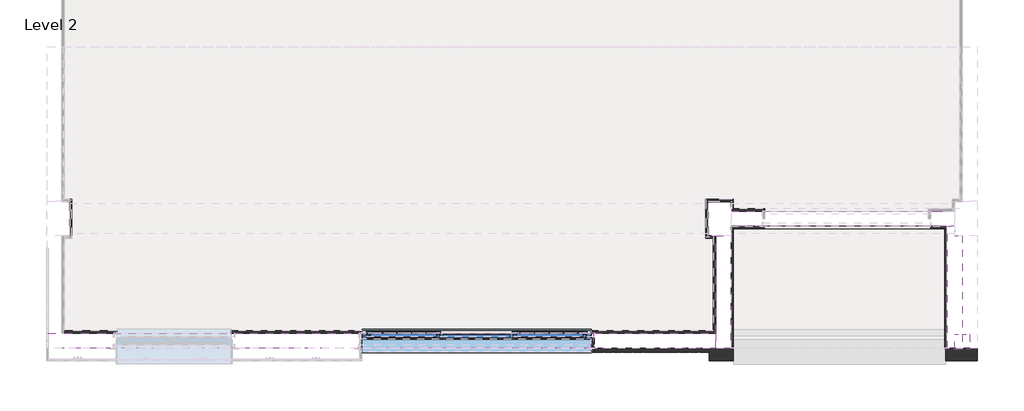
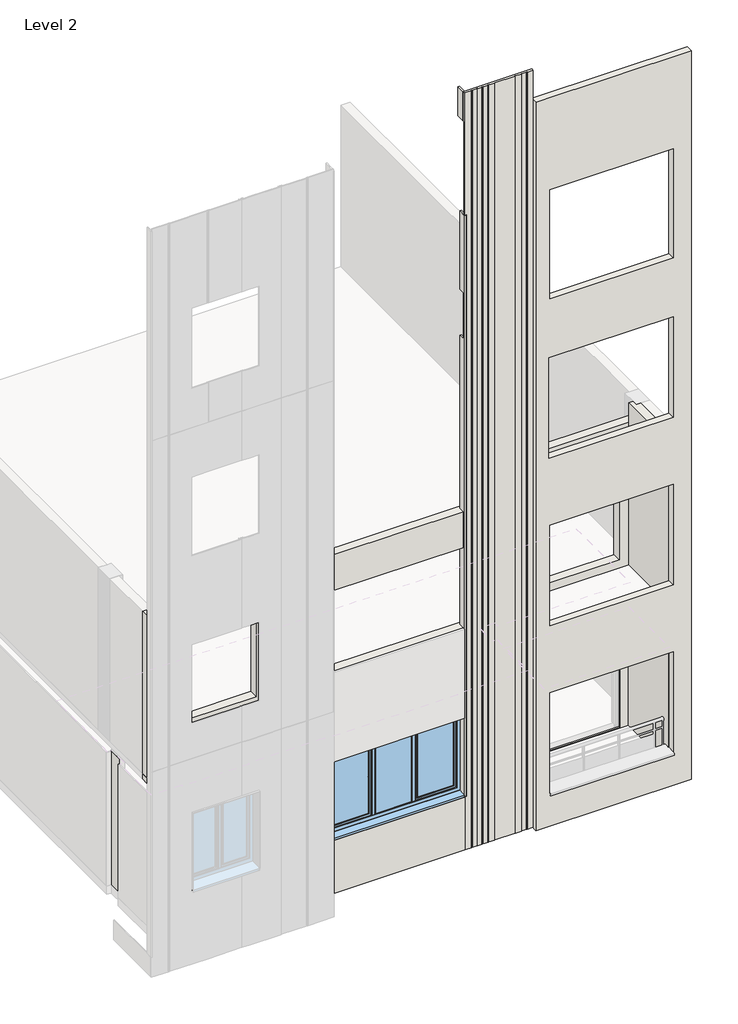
# One storey, part 2 of 3: 22 walls, 1 window.
"""IFC4 building model written with IfcOpenShell, lengths in millimetres."""

from ifc_helpers import new_model, si_unit, frame, origin, place, context, project, spatial, polyline, circle_curve, outline, extrude, faceted_brep, transform, mapped, element, save
from ifc_brep_helpers import plane_surface, revolved_surface, advanced_brep
from components import window_99bb7202, window_5d68ef25

model = new_model("IFC4")

# Units and contexts
model_context = context("Model", 3, world=origin())
ifc_project = project(units=[si_unit("LENGTHUNIT", "METRE", prefix="MILLI")], contexts=[model_context])

# Site, building, storey
site = spatial("IfcSite", under=ifc_project)
building = spatial("IfcBuilding", under=site)
storey = spatial("IfcBuildingStorey", under=building, Name="Level 2", Elevation=4000.0)

# Walls
placement = place(None, origin())
element("IfcWall", 1, ObjectType="BZ1_fnsh_wthie stucoo_3cm", at=placement, inside=storey, context=model_context, shape_type="Brep", body=[
    faceted_brep([(7589.4333411, -4100.9647185, 4000.0), (4759.4333411, -4100.9647185, 4000.0), (4759.4333411, -4100.9647185, 6820.0), (7589.4333411, -4100.9647185, 6820.0), (5195.0708411, -4100.9647185, 6400.0), (5195.0708411, -4100.9647185, 4020.6375), (7374.4333411, -4100.9647185, 4020.6375), (7374.4333411, -4100.9647185, 6400.0), (7589.4333411, -4130.9647185, 4000.0), (7589.4333411, -4130.9647185, 6800.0), (7589.4333411, -4130.9647185, 6820.0), (4759.4333411, -4130.9647185, 6820.0), (4759.4333411, -4130.9647185, 6800.0), (4759.4333411, -4130.9647185, 4000.0), (7559.4333411, -4130.9647185, 4000.0), (5195.0708411, -4130.9647185, 6400.0), (7374.4333411, -4130.9647185, 6400.0), (7374.4333411, -4130.9647185, 4020.6375), (5195.0708411, -4130.9647185, 4020.6375)], [[[0, 1, 2, 3], [4, 5, 6, 7]], [[8, 9, 10, 11, 12, 13, 14], [15, 16, 17, 18]], [[0, 3, 10, 9, 8]], [[1, 0, 8, 14, 13]], [[2, 1, 13, 12, 11]], [[3, 2, 11, 10]], [[5, 4, 15, 18]], [[6, 5, 18, 17]], [[7, 6, 17, 16]], [[4, 7, 16, 15]]]),
])
element("IfcWall", 2, ObjectType="BZ1_fnsh_wthie stucoo_3cm", at=placement, inside=storey, context=model_context, shape_type="SweptSolid", body=[
    extrude(outline(polyline([(7589.4333411, -4130.9647185), (7589.4333411, -5700.9647185), (7559.4333411, -5700.9647185), (7559.4333411, -4130.9647185), (7589.4333411, -4130.9647185)])), frame((0.0, 0.0, 4000.0), z_axis=(0.0, 0.0, 1.0), x_axis=(1.0, 0.0, 0.0)), (0.0, 0.0, 1.0), 2800.0),
])
element("IfcWall", 3, ObjectType="BZ1_fnsh_wthie stucoo_3cm", at=placement, inside=storey, context=model_context, shape_type="Brep", body=[
    faceted_brep([(4789.4333411, -5700.9647185, 6800.0), (4789.4333411, -5700.9647185, 4400.0), (4789.4333411, -5700.9647185, 3842.5873092), (4789.4333411, -4130.9647185, 3842.5873092), (4789.4333411, -4130.9647185, 6800.0), (4759.4333411, -5700.9647185, 3842.5873092), (4759.4333411, -5700.9647185, 6800.0), (4759.4333411, -4130.9647185, 6800.0), (4759.4333411, -4130.9647185, 4000.0), (4759.4333411, -4130.9647185, 3842.5873092)], [[[0, 1, 2, 3, 4]], [[5, 6, 7, 8, 9]], [[3, 2, 5, 9]], [[0, 4, 7, 6]], [[4, 3, 9, 8, 7]], [[0, 6, 5, 2, 1]]]),
])
element("IfcWall", 4, ObjectType="BZ1_fnsh_white stucoo_5cm", at=placement, inside=storey, context=model_context, shape_type="AdvancedBrep", body=[
    advanced_brep(
    [(4474.4333411, -5700.9799478, 3630.0), (2939.4333411, -5700.9799478, 3630.0), (2939.4333411, -5700.9799478, 4900.0), (2967.4333411, -5700.9799478, 4900.0), (2967.4333411, -5700.9799478, 7670.0), (2967.4333411, -5700.9799478, 11670.0), (2967.4333411, -5700.9799478, 15800.0), (2967.4333411, -5700.9799478, 18770.0), (2967.4333411, -5700.9799478, 18770.3886675), (2957.4960399, -5700.9799478, 18770.3886675), (2939.4333411, -5700.9799478, 18770.3886675), (2939.4333411, -5700.9799478, 21000.0), (2924.4333411, -5700.9799478, 21000.0), (2924.4333411, -5700.9799478, 21694.873822), (2924.4333411, -5700.9799478, 21696.328216), (4474.4333411, -5700.9799478, 21696.328216), (4474.4333411, -5700.9799478, 21000.0), (4474.4333411, -5750.9799478, 3630.0), (4474.4333411, -5750.9799478, 21696.328216), (4346.3531683, -5750.9799478, 21696.328216), (4346.3531683, -5750.9799478, 3630.0), (3103.4960254, -5750.9799478, 21696.328216), (3103.4960254, -5750.9799478, 3630.0), (3206.067454, -5750.9799478, 3630.0), (3206.067454, -5750.9799478, 21696.328216), (3601.7817397, -5750.9799478, 3630.0), (3601.7817397, -5750.9799478, 21696.328216), (3479.2103111, -5750.9799478, 21696.328216), (3479.2103111, -5750.9799478, 3630.0), (3463.2103111, -5750.9799478, 3630.0), (3463.2103111, -5750.9799478, 21696.328216), (3340.6388826, -5750.9799478, 21696.328216), (3340.6388826, -5750.9799478, 3630.0), (3324.6388826, -5750.9799478, 3630.0), (3324.6388826, -5750.9799478, 21696.328216), (3222.067454, -5750.9799478, 21696.328216), (3222.067454, -5750.9799478, 3630.0), (4330.3531683, -5750.9799478, 3630.0), (4330.3531683, -5750.9799478, 21696.328216), (4227.7817397, -5750.9799478, 21696.328216), (4227.7817397, -5750.9799478, 3630.0), (4211.7817397, -5750.9799478, 3630.0), (4211.7817397, -5750.9799478, 21696.328216), (4080.692605, -5750.9799478, 21696.328216), (4080.692605, -5750.9799478, 3630.0), (4064.692605, -5750.9799478, 3630.0), (4064.692605, -5750.9799478, 21696.328216), (3617.7817397, -5750.9799478, 21696.328216), (3617.7817397, -5750.9799478, 3630.0), (2939.4333411, -5750.9799478, 4900.0), (2939.4333411, -5750.9799478, 3630.0), (3087.4960254, -5750.9799478, 3630.0), (3087.4960254, -5750.9799478, 21696.328216), (2924.4333411, -5750.9799478, 21696.328216), (2924.4333411, -5750.9799478, 21000.0), (2939.4333411, -5750.9799478, 21000.0), (2939.4333411, -5750.9799478, 18770.3886675), (2967.4333411, -5750.9799478, 18770.3886675), (2967.4333411, -5750.9799478, 18770.0), (2967.4333411, -5750.9799478, 4900.0), (2967.4333411, -5708.7266002, 18770.3886675), (3095.4960254, -5742.9799478, 21696.328216), (3095.4960254, -5742.9799478, 3630.0), (3609.7817397, -5742.9799478, 21696.328216), (3609.7817397, -5742.9799478, 3630.0), (3471.2103111, -5742.9799478, 21696.328216), (3471.2103111, -5742.9799478, 3630.0), (3332.6388826, -5742.9799478, 21696.328216), (3332.6388826, -5742.9799478, 3630.0), (3214.067454, -5742.9799478, 21696.328216), (3214.067454, -5742.9799478, 3630.0), (4338.3531683, -5742.9799478, 21696.328216), (4338.3531683, -5742.9799478, 3630.0), (4219.7817397, -5742.9799478, 21696.328216), (4219.7817397, -5742.9799478, 3630.0), (4072.692605, -5742.9799478, 21696.328216), (4072.692605, -5742.9799478, 3630.0)],
    [
        (0, 1),
        (1, 2),
        (2, 3),
        (3, 4),
        (4, 5),
        (5, 6),
        (6, 7),
        (7, 8),
        (8, 9),
        (9, 10),
        (10, 11),
        (11, 12),
        (12, 13),
        (13, 14),
        (14, 15),
        (15, 16),
        (16, 0),
        (17, 18),
        (18, 19),
        (19, 20),
        (20, 17),
        (21, 22),
        (22, 23),
        (23, 24),
        (24, 21),
        (25, 26),
        (26, 27),
        (27, 28),
        (28, 25),
        (29, 30),
        (30, 31),
        (31, 32),
        (32, 29),
        (33, 34),
        (34, 35),
        (35, 36),
        (36, 33),
        (37, 38),
        (38, 39),
        (39, 40),
        (40, 37),
        (41, 42),
        (42, 43),
        (43, 44),
        (44, 41),
        (45, 46),
        (46, 47),
        (47, 48),
        (48, 45),
        (49, 50),
        (50, 51),
        (51, 52),
        (52, 53),
        (53, 54),
        (54, 55),
        (55, 56),
        (56, 57),
        (57, 58),
        (58, 59),
        (59, 49),
        (57, 60),
        (60, 8),
        (3, 59),
        (12, 54),
        (53, 14),
        (61, 62),
        (62, 22, circle_curve(frame((3095.4960254, -5750.9799478, 3630.0), z_axis=(0.0, 0.0, -1.0), x_axis=(0.0, 1.0, 0.0)), 8.0)),
        (21, 61, circle_curve(frame((3095.4960254, -5750.9799478, 21696.328216), z_axis=(0.0, 0.0, 1.0), x_axis=(0.0, 1.0, 0.0)), 8.0)),
        (63, 64),
        (64, 48, circle_curve(frame((3609.7817397, -5750.9799478, 3630.0), z_axis=(0.0, 0.0, -1.0), x_axis=(0.0, 1.0, 0.0)), 8.0)),
        (47, 63, circle_curve(frame((3609.7817397, -5750.9799478, 21696.328216), z_axis=(0.0, 0.0, 1.0), x_axis=(0.0, 1.0, 0.0)), 8.0)),
        (65, 66),
        (66, 28, circle_curve(frame((3471.2103111, -5750.9799478, 3630.0), z_axis=(0.0, 0.0, -1.0), x_axis=(0.0, 1.0, 0.0)), 8.0)),
        (27, 65, circle_curve(frame((3471.2103111, -5750.9799478, 21696.328216), z_axis=(0.0, 0.0, 1.0), x_axis=(0.0, 1.0, 0.0)), 8.0)),
        (67, 68),
        (68, 32, circle_curve(frame((3332.6388826, -5750.9799478, 3630.0), z_axis=(0.0, 0.0, -1.0), x_axis=(0.0, 1.0, 0.0)), 8.0)),
        (31, 67, circle_curve(frame((3332.6388826, -5750.9799478, 21696.328216), z_axis=(0.0, 0.0, 1.0), x_axis=(0.0, 1.0, 0.0)), 8.0)),
        (69, 70),
        (70, 36, circle_curve(frame((3214.067454, -5750.9799478, 3630.0), z_axis=(0.0, 0.0, -1.0), x_axis=(0.0, 1.0, 0.0)), 8.0)),
        (35, 69, circle_curve(frame((3214.067454, -5750.9799478, 21696.328216), z_axis=(0.0, 0.0, 1.0), x_axis=(0.0, 1.0, 0.0)), 8.0)),
        (71, 72),
        (72, 20, circle_curve(frame((4338.3531683, -5750.9799478, 3630.0), z_axis=(0.0, 0.0, -1.0), x_axis=(0.0, 1.0, 0.0)), 8.0)),
        (19, 71, circle_curve(frame((4338.3531683, -5750.9799478, 21696.328216), z_axis=(0.0, 0.0, 1.0), x_axis=(0.0, 1.0, 0.0)), 8.0)),
        (73, 74),
        (74, 40, circle_curve(frame((4219.7817397, -5750.9799478, 3630.0), z_axis=(0.0, 0.0, -1.0), x_axis=(0.0, 1.0, 0.0)), 8.0)),
        (39, 73, circle_curve(frame((4219.7817397, -5750.9799478, 21696.328216), z_axis=(0.0, 0.0, 1.0), x_axis=(0.0, 1.0, 0.0)), 8.0)),
        (75, 76),
        (76, 44, circle_curve(frame((4072.692605, -5750.9799478, 3630.0), z_axis=(0.0, 0.0, -1.0), x_axis=(0.0, 1.0, 0.0)), 8.0)),
        (43, 75, circle_curve(frame((4072.692605, -5750.9799478, 21696.328216), z_axis=(0.0, 0.0, 1.0), x_axis=(0.0, 1.0, 0.0)), 8.0)),
        (61, 52, circle_curve(frame((3095.4960254, -5750.9799478, 21696.328216), z_axis=(0.0, 0.0, 1.0), x_axis=(0.0, 1.0, 0.0)), 8.0)),
        (51, 62, circle_curve(frame((3095.4960254, -5750.9799478, 3630.0), z_axis=(0.0, 0.0, -1.0), x_axis=(0.0, 1.0, 0.0)), 8.0)),
        (63, 26, circle_curve(frame((3609.7817397, -5750.9799478, 21696.328216), z_axis=(0.0, 0.0, 1.0), x_axis=(0.0, 1.0, 0.0)), 8.0)),
        (25, 64, circle_curve(frame((3609.7817397, -5750.9799478, 3630.0), z_axis=(0.0, 0.0, -1.0), x_axis=(0.0, 1.0, 0.0)), 8.0)),
        (65, 30, circle_curve(frame((3471.2103111, -5750.9799478, 21696.328216), z_axis=(0.0, 0.0, 1.0), x_axis=(0.0, 1.0, 0.0)), 8.0)),
        (29, 66, circle_curve(frame((3471.2103111, -5750.9799478, 3630.0), z_axis=(0.0, 0.0, -1.0), x_axis=(0.0, 1.0, 0.0)), 8.0)),
        (67, 34, circle_curve(frame((3332.6388826, -5750.9799478, 21696.328216), z_axis=(0.0, 0.0, 1.0), x_axis=(0.0, 1.0, 0.0)), 8.0)),
        (33, 68, circle_curve(frame((3332.6388826, -5750.9799478, 3630.0), z_axis=(0.0, 0.0, -1.0), x_axis=(0.0, 1.0, 0.0)), 8.0)),
        (69, 24, circle_curve(frame((3214.067454, -5750.9799478, 21696.328216), z_axis=(0.0, 0.0, 1.0), x_axis=(0.0, 1.0, 0.0)), 8.0)),
        (23, 70, circle_curve(frame((3214.067454, -5750.9799478, 3630.0), z_axis=(0.0, 0.0, -1.0), x_axis=(0.0, 1.0, 0.0)), 8.0)),
        (71, 38, circle_curve(frame((4338.3531683, -5750.9799478, 21696.328216), z_axis=(0.0, 0.0, 1.0), x_axis=(0.0, 1.0, 0.0)), 8.0)),
        (37, 72, circle_curve(frame((4338.3531683, -5750.9799478, 3630.0), z_axis=(0.0, 0.0, -1.0), x_axis=(0.0, 1.0, 0.0)), 8.0)),
        (73, 42, circle_curve(frame((4219.7817397, -5750.9799478, 21696.328216), z_axis=(0.0, 0.0, 1.0), x_axis=(0.0, 1.0, 0.0)), 8.0)),
        (41, 74, circle_curve(frame((4219.7817397, -5750.9799478, 3630.0), z_axis=(0.0, 0.0, -1.0), x_axis=(0.0, 1.0, 0.0)), 8.0)),
        (75, 46, circle_curve(frame((4072.692605, -5750.9799478, 21696.328216), z_axis=(0.0, 0.0, 1.0), x_axis=(0.0, 1.0, 0.0)), 8.0)),
        (45, 76, circle_curve(frame((4072.692605, -5750.9799478, 3630.0), z_axis=(0.0, 0.0, -1.0), x_axis=(0.0, 1.0, 0.0)), 8.0)),
        (0, 17),
        (50, 1),
        (18, 15),
        (49, 2),
        (55, 11),
        (10, 56),
    ],
    [
        plane_surface(frame((4759.4333411, -5700.9799478, 3630.0), z_axis=(0.0, 1.0, 0.0), x_axis=(-1.0, 0.0, 0.0))),
        plane_surface(frame((4759.4333411, -5750.9799478, 3630.0), z_axis=(0.0, -1.0, 0.0), x_axis=(1.0, 0.0, 0.0))),
        plane_surface(frame((2967.4333411, -5568.8647185, 4900.0), z_axis=(-1.0, 0.0, 0.0), x_axis=(0.0, 1.0, 0.0))),
        plane_surface(frame((2924.4333411, -5600.9647185, 21000.0), z_axis=(-1.0, 0.0, 0.0), x_axis=(0.0, -1.0, 0.0))),
        revolved_surface(polyline([(3095.4960254, -5742.9799478, 3630.0), (3095.4960254, -5742.9799478, 21696.328216)]), (3095.4960254, -5750.9799478, 3630.0), (0.0, 0.0, -1.0)),
        revolved_surface(polyline([(3609.7817397, -5742.9799478, 3630.0), (3609.7817397, -5742.9799478, 21696.328216)]), (3609.7817397, -5750.9799478, 3630.0), (0.0, 0.0, -1.0)),
        revolved_surface(polyline([(3471.2103111, -5742.9799478, 3630.0), (3471.2103111, -5742.9799478, 21696.328216)]), (3471.2103111, -5750.9799478, 3630.0), (0.0, 0.0, -1.0)),
        revolved_surface(polyline([(3332.6388826, -5742.9799478, 3630.0), (3332.6388826, -5742.9799478, 21696.328216)]), (3332.6388826, -5750.9799478, 3630.0), (0.0, 0.0, -1.0)),
        revolved_surface(polyline([(3214.067454, -5742.9799478, 3630.0), (3214.067454, -5742.9799478, 21696.328216)]), (3214.067454, -5750.9799478, 3630.0), (0.0, 0.0, -1.0)),
        revolved_surface(polyline([(4338.3531683, -5742.9799478, 3630.0), (4338.3531683, -5742.9799478, 21696.328216)]), (4338.3531683, -5750.9799478, 3630.0), (0.0, 0.0, -1.0)),
        revolved_surface(polyline([(4219.7817397, -5742.9799478, 3630.0), (4219.7817397, -5742.9799478, 21696.328216)]), (4219.7817397, -5750.9799478, 3630.0), (0.0, 0.0, -1.0)),
        revolved_surface(polyline([(4072.692605, -5742.9799478, 3630.0), (4072.692605, -5742.9799478, 21696.328216)]), (4072.692605, -5750.9799478, 3630.0), (0.0, 0.0, -1.0)),
        plane_surface(frame((4474.4333411, -5700.9799478, 3630.0), z_axis=(0.0, 0.0, -1.0), x_axis=(0.0, -1.0, 0.0))),
        plane_surface(frame((2939.4333411, -5700.9799478, 21696.328216), z_axis=(0.0, 0.0, 1.0), x_axis=(0.0, -1.0, 0.0))),
        plane_surface(frame((4474.4333411, -5700.9799478, 21696.328216), z_axis=(1.0, 0.0, 0.0), x_axis=(0.0, -1.0, 0.0))),
        plane_surface(frame((2939.4333411, -5700.9799478, 3630.0), z_axis=(-1.0, 0.0, 0.0), x_axis=(0.0, -1.0, 0.0))),
        plane_surface(frame((2939.4333411, -5700.9799478, 4900.0), z_axis=(0.0, 0.0, 1.0), x_axis=(1.0, 0.0, 0.0))),
        plane_surface(frame((2939.4333411, -5700.9799478, 18770.3886675), z_axis=(0.0, 0.0, -1.0), x_axis=(1.0, 0.0, 0.0))),
        plane_surface(frame((2939.4333411, -5700.9799478, 21000.0), z_axis=(0.0, 0.0, -1.0), x_axis=(1.0, 0.0, 0.0))),
    ],
    [
        (0, [[1, 2, 3, 4, 5, 6, 7, 8, 9, 10, 11, 12, 13, 14, 15, 16, 17]]),
        (1, [[18, 19, 20, 21]]),
        (1, [[22, 23, 24, 25]]),
        (1, [[26, 27, 28, 29]]),
        (1, [[30, 31, 32, 33]]),
        (1, [[34, 35, 36, 37]]),
        (1, [[38, 39, 40, 41]]),
        (1, [[42, 43, 44, 45]]),
        (1, [[46, 47, 48, 49]]),
        (1, [[50, 51, 52, 53, 54, 55, 56, 57, 58, 59, 60]]),
        (2, [[-59, -58, 61, 62, -8, -7, -6, -5, -4, 63]]),
        (3, [[-14, -13, 64, -54, 65]]),
        (4, [[66, 67, -22, 68]]),
        (5, [[69, 70, -48, 71]]),
        (6, [[72, 73, -28, 74]]),
        (7, [[75, 76, -32, 77]]),
        (8, [[78, 79, -36, 80]]),
        (9, [[81, 82, -20, 83]]),
        (10, [[84, 85, -40, 86]]),
        (11, [[87, 88, -44, 89]]),
        (4, [[-66, 90, -52, 91]]),
        (5, [[-69, 92, -26, 93]]),
        (6, [[-72, 94, -30, 95]]),
        (7, [[-75, 96, -34, 97]]),
        (8, [[-78, 98, -24, 99]]),
        (9, [[-81, 100, -38, 101]]),
        (10, [[-84, 102, -42, 103]]),
        (11, [[-87, 104, -46, 105]]),
        (12, [[-1, 106, -21, -82, -101, -41, -85, -103, -45, -88, -105, -49, -70, -93, -29, -73, -95, -33, -76, -97, -37, -79, -99, -23, -67, -91, -51, 107]]),
        (13, [[-15, -65, -53, -90, -68, -25, -98, -80, -35, -96, -77, -31, -94, -74, -27, -92, -71, -47, -104, -89, -43, -102, -86, -39, -100, -83, -19, 108]]),
        (14, [[-17, -16, -108, -18, -106]]),
        (15, [[-50, 109, -2, -107]]),
        (15, [[-56, 110, -11, 111]]),
        (16, [[-3, -109, -60, -63]]),
        (17, [[-111, -10, -9, -62, -61, -57]]),
        (18, [[-12, -110, -55, -64]]),
    ],
),
])
element("IfcWall", 5, ObjectType="BZ1_fnsh_blue stucoo_frame_4cm", at=placement, inside=storey, context=model_context, shape_type="Brep", body=[
    faceted_brep([(2927.4333411, -5568.8647185, 4900.0), (2927.4333411, -5750.9799478, 4900.0), (2927.4333411, -5750.9799478, 6770.0), (2927.4333411, -5750.9799478, 8900.0), (2927.4333411, -5750.9799478, 10770.0), (2927.4333411, -5750.9799478, 12900.0), (2927.4333411, -5750.9799478, 14770.0), (2927.4333411, -5750.9799478, 16900.0), (2927.4333411, -5750.9799478, 18770.0), (2927.4333411, -5568.8647185, 18770.0), (2927.4333411, -5568.8647185, 16900.0), (2927.4333411, -5700.9647185, 16900.0), (2927.4333411, -5700.9647185, 15800.0), (2927.4333411, -5568.8647185, 15800.0), (2927.4333411, -5568.8647185, 11670.0), (2927.4333411, -5700.9647185, 11670.0), (2927.4333411, -5700.9647185, 10810.0), (2927.4333411, -5568.8647185, 10810.0), (2927.4333411, -5568.8647185, 8900.0), (2927.4333411, -5700.9647185, 8900.0), (2927.4333411, -5700.9647185, 7670.0), (2927.4333411, -5568.8647185, 7670.0), (2967.4333411, -5750.9799478, 4900.0), (2967.4333411, -5700.9799478, 4900.0), (2967.4333411, -5568.8647185, 4900.0), (2967.4333411, -5568.8647185, 7670.0), (2967.4333411, -5700.9647185, 7670.0), (2967.4333411, -5700.9647185, 11670.0), (2967.4333411, -5568.8647185, 11670.0), (2967.4333411, -5568.8647185, 15800.0), (2967.4333411, -5700.9647185, 15800.0), (2967.4333411, -5700.9647185, 18770.0), (2967.4333411, -5750.9799478, 18770.0), (2939.4333411, -5750.9799478, 4900.0), (2957.4960254, -5700.9647185, 15800.0), (2957.4960254, -5700.9647185, 16900.0), (2964.4333411, -5700.9647185, 16900.0), (2964.4333411, -5700.9647185, 18770.0), (2964.4333411, -5568.8647185, 16900.0), (2964.4333411, -5693.0356138, 16900.0), (2964.4333411, -5700.9647185, 8900.0), (2964.4333411, -5700.9647185, 10810.0), (2964.4333411, -5568.8647185, 10810.0), (2964.4333411, -5568.8647185, 8900.0), (2964.4333411, -5568.8647185, 18770.0)], [[[0, 1, 2, 3, 4, 5, 6, 7, 8, 9, 10, 11, 12, 13, 14, 15, 16, 17, 18, 19, 20, 21]], [[22, 23, 24, 25, 26, 27, 28, 29, 30, 31, 32]], [[22, 32, 8, 7, 6, 5, 4, 3, 2, 1, 33]], [[30, 34, 12, 11, 35, 36, 37, 31]], [[12, 34, 30, 29, 13]], [[36, 35, 11, 10, 38, 39]], [[40, 41, 16, 15, 27, 26, 20, 19]], [[20, 26, 25, 21]], [[16, 41, 42, 17]], [[40, 19, 18, 43]], [[1, 0, 24, 23, 22, 33]], [[9, 8, 32, 31, 37, 44]], [[10, 9, 44, 38]], [[18, 17, 42, 43]], [[24, 0, 21, 25]], [[13, 29, 28, 14]], [[27, 15, 14, 28]], [[36, 39, 38, 44, 37]], [[41, 40, 43, 42]]]),
])
element("IfcWall", 6, ObjectType="BZ1_fnsh_white stucoo_5cm", at=placement, inside=storey, context=model_context, shape_type="Brep", body=[
    faceted_brep([(2939.4333411, -5700.9799478, 3630.0), (-80.2322612, -5700.9799478, 3630.0), (-80.2322612, -5700.9799478, 4900.0), (2939.4333411, -5700.9799478, 4900.0), (2939.4333411, -5750.9799478, 3630.0), (2939.4333411, -5750.9799478, 4900.0), (2927.4333411, -5750.9799478, 4900.0), (-80.2322612, -5750.9799478, 4900.0), (-80.2322612, -5750.9799478, 3630.0)], [[[0, 1, 2, 3]], [[4, 5, 6, 7, 8]], [[2, 1, 8, 7]], [[1, 0, 4, 8]], [[3, 2, 7, 6, 5]], [[0, 3, 5, 4]]]),
])
element("IfcWall", 7, ObjectType="BZ1_fnsh_wthie stucoo_3cm", at=placement, inside=storey, context=model_context, shape_type="Brep", body=[
    faceted_brep([(2924.4333411, -5500.9647185, 21000.0), (2924.4333411, -5700.9799478, 21000.0), (2924.4333411, -5700.9799478, 21694.873822), (2924.4333411, -5500.9647185, 21694.873822), (2954.4333411, -5500.9647185, 21000.0), (2954.4333411, -5500.9647185, 21694.873822), (2954.4333411, -5700.9799478, 21694.873822), (2954.4333411, -5700.9799478, 21000.0), (2939.4333411, -5500.9647185, 21000.0), (2939.4333411, -5700.9799478, 21000.0)], [[[0, 1, 2, 3]], [[4, 5, 6, 7]], [[1, 0, 8, 4, 7, 9]], [[3, 2, 6, 5]], [[2, 1, 9, 7, 6]], [[0, 3, 5, 4, 8]]]),
])
element("IfcWall", 8, ObjectType="BZ1_fnsh_gypsun3cm", at=placement, inside=storey, context=model_context, shape_type="Brep", body=[
    faceted_brep([(5204.4333411, -3870.9647185, 4000.0), (4789.4333411, -3870.9647185, 4000.0), (4759.4333411, -3870.9647185, 4000.0), (4759.4333411, -3870.9647185, 7200.0), (4759.4333411, -3870.9647185, 7300.0), (5204.4333411, -3870.9647185, 7300.0), (5204.4333411, -3870.9647185, 7200.0), (5174.4333411, -3870.9647185, 7200.0), (5174.4333411, -3870.9647185, 6400.0), (5204.4333411, -3870.9647185, 6400.0), (5204.4333411, -3900.9647185, 4000.0), (5204.4333411, -3900.9647185, 6400.0), (5174.4333411, -3900.9647185, 6400.0), (5174.4333411, -3900.9647185, 7200.0), (5204.4333411, -3900.9647185, 7200.0), (5204.4333411, -3900.9647185, 7300.0), (5174.4333411, -3900.9647185, 7300.0), (4759.4333411, -3900.9647185, 7300.0), (4759.4333411, -3900.9647185, 4000.0), (5174.4333411, -3900.9647185, 4000.0)], [[[0, 1, 2, 3, 4, 5, 6, 7, 8, 9]], [[10, 11, 12, 13, 14, 15, 16, 17, 18, 19]], [[2, 1, 0, 10, 19, 18]], [[5, 4, 17, 16, 15]], [[4, 3, 2, 18, 17]], [[8, 12, 11, 9]], [[8, 7, 13, 12]], [[6, 14, 13, 7]], [[0, 9, 11, 10]], [[6, 5, 15, 14]]]),
])
element("IfcWall", 9, ObjectType="BZ1_fnsh_gypsun3cm", at=placement, inside=storey, context=model_context, shape_type="Brep", body=[
    faceted_brep([(4789.4333411, -3870.9647185, 4000.0), (4789.4333411, -3745.9647185, 4000.0), (4789.4333411, -3745.9647185, 7200.0), (4789.4333411, -3870.9647185, 7200.0), (4759.4333411, -3870.9647185, 4000.0), (4759.4333411, -3870.9647185, 7200.0), (4759.4333411, -3775.9647185, 7200.0), (4759.4333411, -3745.9647185, 7200.0), (4759.4333411, -3745.9647185, 4000.0), (4759.4333411, -3775.9647185, 4000.0)], [[[0, 1, 2, 3]], [[4, 5, 6, 7, 8, 9]], [[1, 0, 4, 9, 8]], [[3, 2, 7, 6, 5]], [[0, 3, 5, 4]], [[2, 1, 8, 7]]]),
])
element("IfcWall", 10, ObjectType="BZ1_fnsh_gypsun3cm", at=placement, inside=storey, context=model_context, shape_type="Brep", body=[
    faceted_brep([(4759.4333411, -3745.9647185, 4000.0), (4429.4333411, -3745.9647185, 4000.0), (4429.4333411, -3745.9647185, 7200.0), (4759.4333411, -3745.9647185, 7200.0), (4759.4333411, -3775.9647185, 4000.0), (4759.4333411, -3775.9647185, 7200.0), (4429.4333411, -3775.9647185, 7200.0), (4429.4333411, -3775.9647185, 4000.0), (4459.4333411, -3775.9647185, 4000.0)], [[[0, 1, 2, 3]], [[4, 5, 6, 7, 8]], [[1, 0, 4, 8, 7]], [[3, 2, 6, 5]], [[0, 3, 5, 4]], [[2, 1, 7, 6]]]),
])
element("IfcWall", 11, ObjectType="BZ1_fnsh_gypsun3cm", at=placement, inside=storey, context=model_context, shape_type="Brep", body=[
    faceted_brep([(4429.4333411, -3775.9647185, 4000.0), (4429.4333411, -4255.9647185, 4000.0), (4429.4333411, -4255.9647185, 7180.0), (4429.4333411, -4240.9647185, 7180.0), (4429.4333411, -4240.9647185, 7200.4600485), (4429.4333411, -3775.9647185, 7200.4600485), (4429.4333411, -3775.9647185, 7200.0), (4459.4333411, -3775.9647185, 4000.0), (4459.4333411, -3775.9647185, 7200.4600485), (4459.4333411, -4240.9647185, 7200.4600485), (4459.4333411, -4240.9647185, 7180.0), (4459.4333411, -4255.9647185, 7180.0), (4459.4333411, -4255.9647185, 4000.0), (4459.4333411, -4225.9647185, 4000.0)], [[[0, 1, 2, 3, 4, 5, 6]], [[7, 8, 9, 10, 11, 12, 13]], [[1, 0, 7, 13, 12]], [[0, 6, 5, 8, 7]], [[2, 1, 12, 11]], [[5, 4, 9, 8]], [[9, 4, 3, 10]], [[3, 2, 11, 10]]]),
])
element("IfcWall", 12, ObjectType="BZ1_fnsh_gypsun3cm", at=placement, inside=storey, context=model_context, shape_type="Brep", body=[
    faceted_brep([(4459.4333411, -4255.9647185, 4000.0), (4529.4333411, -4255.9647185, 4000.0), (4559.4333411, -4255.9647185, 4000.0), (4559.4333411, -4255.9647185, 7200.0), (4559.4333411, -4255.9647185, 7300.0), (4459.4333411, -4255.9647185, 7300.0), (4459.4333411, -4255.9647185, 7180.0), (4459.4333411, -4225.9647185, 4000.0), (4459.4333411, -4225.9647185, 7300.0), (4559.4333411, -4225.9647185, 7300.0), (4559.4333411, -4225.9647185, 4000.0)], [[[0, 1, 2, 3, 4, 5, 6]], [[7, 8, 9, 10]], [[2, 1, 0, 7, 10]], [[5, 4, 9, 8]], [[0, 6, 5, 8, 7]], [[2, 10, 9, 4, 3]]]),
])
element("IfcWall", 13, ObjectType="BZ1_fnsh_gypsun3cm", at=placement, inside=storey, context=model_context, shape_type="SweptSolid", body=[
    extrude(outline(polyline([(4529.4333411, -5500.9647185), (4529.4333411, -4255.9647185), (4559.4333411, -4255.9647185), (4559.4333411, -5500.9647185), (4529.4333411, -5500.9647185)])), frame((0.0, 0.0, 4000.0), z_axis=(0.0, 0.0, 1.0), x_axis=(1.0, 0.0, 0.0)), (0.0, 0.0, 1.0), 3200.0),
])
element("IfcWall", 14, ObjectType="BZ1_fnsh_gypsun3cm", at=placement, inside=storey, context=model_context, shape_type="SweptSolid", body=[
    extrude(outline(polyline([(4000.0, 4559.4333411), (7180.0, 4559.4333411), (7180.0, -4010.5666589), (4000.0, -4010.5666589), (4000.0, 4559.4333411)]), holes=[polyline([(4940.0, -1790.5666589), (4940.0, -3290.5666589), (6770.0, -3290.5666589), (6770.0, -1790.5666589), (4940.0, -1790.5666589)]), polyline([(4970.0, 2922.4333411), (4970.0, -75.5666589), (6770.0, -75.5666589), (6770.0, 2922.4333411), (4970.0, 2922.4333411)])]), frame((0.0, -5500.9647185, 0.0), z_axis=(0.0, 1.0, 0.0), x_axis=(0.0, 0.0, 1.0)), (0.0, 0.0, 1.0), 30.0),
])
element("IfcWall", 15, ObjectType="BZ1_fnsh_gypsun3cm", at=placement, inside=storey, context=model_context, shape_type="Brep", body=[
    faceted_brep([(-3880.5666589, -4225.9647185, 4000.0), (-3880.5666589, -3745.9647185, 4000.0), (-3880.5666589, -3745.9647185, 7180.0), (-3880.5666589, -4225.9647185, 7180.0), (-3910.5666589, -4225.9647185, 4000.0), (-3910.5666589, -4225.9647185, 7180.0), (-3910.5666589, -3775.9647185, 7180.0), (-3910.5666589, -3745.9647185, 7180.0), (-3910.5666589, -3745.9647185, 4000.0), (-3910.5666589, -3775.9647185, 4000.0)], [[[0, 1, 2, 3]], [[4, 5, 6, 7, 8, 9]], [[1, 0, 4, 9, 8]], [[3, 2, 7, 6, 5]], [[0, 3, 5, 4]], [[2, 1, 8, 7]]]),
])
element("IfcWall", 16, ObjectType="BZ1_fnsh_EIFS-16cm-blue", at=placement, inside=storey, context=model_context, shape_type="Brep", body=[
    faceted_brep([(7989.4333411, -5862.9647185, 3620.0), (7989.4333411, -5862.9647185, 21000.0), (4474.4333411, -5862.9647185, 21000.0), (4474.4333411, -5862.9647185, 3620.0), (7574.4333411, -5862.9647185, 18800.0), (7574.4333411, -5862.9647185, 16200.0), (4789.4333411, -5862.9647185, 16200.0), (4789.4333411, -5862.9647185, 18800.0), (7574.4333411, -5862.9647185, 14800.0), (7574.4333411, -5862.9647185, 12400.0), (4774.4333411, -5862.9647185, 12400.0), (4774.4333411, -5862.9647185, 14800.0), (7574.4333411, -5862.9647185, 10800.0), (7574.4333411, -5862.9647185, 8400.0), (4789.4333411, -5862.9647185, 8400.0), (4789.4333411, -5862.9647185, 10800.0), (7574.4333411, -5862.9647185, 6800.0), (7574.4333411, -5862.9647185, 4400.0), (4789.4333411, -5862.9647185, 4400.0), (4789.4333411, -5862.9647185, 6800.0), (7989.4333411, -5700.9647185, 3620.0), (4474.4333411, -5700.9647185, 3620.0), (4474.4333411, -5700.9647185, 3630.0), (4474.4333411, -5700.9647185, 21000.0), (7989.4333411, -5700.9647185, 21000.0), (7989.4333411, -5700.9647185, 11670.0), (7989.4333411, -5700.9647185, 7800.0), (7989.4333411, -5700.9647185, 7670.0), (7989.4333411, -5700.9647185, 3800.0), (7574.4333411, -5700.9647185, 18800.0), (4789.4333411, -5700.9647185, 18800.0), (4789.4333411, -5700.9647185, 16200.0), (7574.4333411, -5700.9647185, 16200.0), (7574.4333411, -5700.9647185, 14800.0), (4774.4333411, -5700.9647185, 14800.0), (4774.4333411, -5700.9647185, 12400.0), (7574.4333411, -5700.9647185, 12400.0), (7574.4333411, -5700.9647185, 10800.0), (4789.4333411, -5700.9647185, 10800.0), (4789.4333411, -5700.9647185, 8400.0), (7574.4333411, -5700.9647185, 8400.0), (7574.4333411, -5700.9647185, 6800.0), (4789.4333411, -5700.9647185, 6800.0), (4789.4333411, -5700.9647185, 4400.0), (7574.4333411, -5700.9647185, 4400.0)], [[[0, 1, 2, 3], [4, 5, 6, 7], [8, 9, 10, 11], [12, 13, 14, 15], [16, 17, 18, 19]], [[20, 21, 22, 23, 24, 25, 26, 27, 28], [29, 30, 31, 32], [33, 34, 35, 36], [37, 38, 39, 40], [41, 42, 43, 44]], [[0, 3, 21, 20]], [[1, 0, 20, 28, 27, 26, 25, 24]], [[2, 1, 24, 23]], [[4, 7, 30, 29]], [[5, 4, 29, 32]], [[6, 5, 32, 31]], [[8, 11, 34, 33]], [[9, 8, 33, 36]], [[10, 9, 36, 35]], [[12, 15, 38, 37]], [[13, 12, 37, 40]], [[14, 13, 40, 39]], [[16, 19, 42, 41]], [[17, 16, 41, 44]], [[18, 17, 44, 43]], [[3, 2, 23, 22, 21]], [[7, 6, 31, 30]], [[11, 10, 35, 34]], [[15, 14, 39, 38]], [[19, 18, 43, 42]]]),
])
element("IfcWall", 17, ObjectType="BZ1_Core_Block_Whit flashing-10cm", at=placement, inside=storey, context=model_context, shape_type="SweptSolid", body=[
    extrude(outline(polyline([(4774.4280707, -5620.3554823), (7574.4280707, -5620.3554823), (7574.4280707, -5700.3554823), (4774.4280707, -5700.3554823), (4774.4280707, -5620.3554823)])), frame((0.0, 0.0, 3800.0), z_axis=(0.0, 0.0, 1.0), x_axis=(1.0, 0.0, 0.0)), (0.0, 0.0, 1.0), 600.0),
])
element("IfcWall", 18, ObjectType="BZ1-Core-Block-20cm", at=placement, inside=storey, context=model_context, shape_type="Brep", body=[
    faceted_brep([(4759.4333411, -4100.9647185, 7800.0), (7589.4333411, -4100.9647185, 7800.0), (7689.4333411, -4100.9647185, 7800.0), (7689.4333411, -4100.9647185, 11200.0), (4759.4333411, -4100.9647185, 11200.0), (5174.4333411, -4100.9647185, 8000.0), (5174.4333411, -4100.9647185, 10400.0), (7374.4333411, -4100.9647185, 10400.0), (7374.4333411, -4100.9647185, 8000.0), (7689.4333411, -3900.9647185, 7800.0), (4759.4333411, -3900.9647185, 7800.0), (4759.4333411, -3900.9647185, 11200.0), (7689.4333411, -3900.9647185, 11200.0), (7689.4333411, -3900.9647185, 8000.0), (5174.4333411, -3900.9647185, 10400.0), (5174.4333411, -3900.9647185, 8000.0), (7374.4333411, -3900.9647185, 8000.0), (7374.4333411, -3900.9647185, 10400.0)], [[[0, 1, 2, 3, 4], [5, 6, 7, 8]], [[9, 10, 11, 12, 13], [14, 15, 16, 17]], [[9, 2, 1, 0, 10]], [[5, 15, 14, 6]], [[6, 14, 17, 7]], [[16, 8, 7, 17]], [[15, 5, 8, 16]], [[10, 0, 4, 11]], [[2, 9, 13, 12, 3]], [[4, 3, 12, 11]]]),
])
element("IfcWall", 19, ObjectType="BZ1-Core-Block-20cm", at=placement, inside=storey, context=model_context, shape_type="Brep", body=[
    faceted_brep([(-4200.5666589, -5700.9647185, 7670.0), (2927.4333411, -5700.9647185, 7670.0), (2967.4333411, -5700.9647185, 7670.0), (4559.4333411, -5700.9647185, 7670.0), (4559.4333411, -5700.9647185, 7800.0), (4559.4333411, -5700.9647185, 11670.0), (2967.4333411, -5700.9647185, 11670.0), (2927.4333411, -5700.9647185, 11670.0), (-4200.5666589, -5700.9647185, 11670.0), (-115.5666589, -5700.9647185, 8900.0), (-115.5666589, -5700.9647185, 10810.0), (2927.4333411, -5700.9647185, 10810.0), (2964.4333411, -5700.9647185, 10810.0), (2964.4333411, -5700.9647185, 8900.0), (2927.4333411, -5700.9647185, 8900.0), (-1750.5666589, -5700.9647185, 8900.0), (-3330.5666589, -5700.9647185, 8900.0), (-3330.5666589, -5700.9647185, 10810.0), (-1750.5666589, -5700.9647185, 10810.0), (-4200.5666589, -5500.9647185, 7670.0), (-4200.5666589, -5500.9647185, 11670.0), (4559.4333411, -5500.9647185, 11670.0), (4559.4333411, -5500.9647185, 11200.0), (4559.4333411, -5500.9647185, 8000.0), (4559.4333411, -5500.9647185, 7670.0), (-115.5666589, -5500.9647185, 8900.0), (2964.4333411, -5500.9647185, 8900.0), (2964.4333411, -5500.9647185, 10810.0), (-115.5666589, -5500.9647185, 10810.0), (-1750.5666589, -5500.9647185, 8900.0), (-1750.5666589, -5500.9647185, 10810.0), (-3330.5666589, -5500.9647185, 10810.0), (-3330.5666589, -5500.9647185, 8900.0), (2964.4333411, -5568.8647185, 10810.0), (2964.4333411, -5568.8647185, 8900.0)], [[[0, 1, 2, 3, 4, 5, 6, 7, 8], [9, 10, 11, 12, 13, 14], [15, 16, 17, 18]], [[19, 20, 21, 22, 23, 24], [25, 26, 27, 28], [29, 30, 31, 32]], [[3, 2, 1, 0, 19, 24]], [[10, 9, 25, 28]], [[12, 11, 10, 28, 27, 33]], [[13, 12, 33, 27, 26, 34]], [[9, 14, 13, 34, 26, 25]], [[30, 29, 15, 18]], [[31, 30, 18, 17]], [[32, 31, 17, 16]], [[29, 32, 16, 15]], [[5, 4, 3, 24, 23, 22, 21]], [[0, 8, 20, 19]], [[20, 8, 7, 6, 5, 21]]]),
])
element("IfcWall", 20, ObjectType="BZ1-Core-Block-20cm", at=placement, inside=storey, context=model_context, shape_type="Brep", body=[
    faceted_brep([(4759.4333411, -5700.9647185, 11670.0), (4759.4333411, -5700.9647185, 7800.0), (4759.4333411, -4225.9647185, 7800.0), (4759.4333411, -4225.9647185, 11670.0), (4559.4333411, -5700.9647185, 7800.0), (4559.4333411, -5700.9647185, 11670.0), (4559.4333411, -5500.9647185, 11670.0), (4559.4333411, -4225.9647185, 11670.0), (4559.4333411, -4225.9647185, 11300.0), (4559.4333411, -4225.9647185, 8000.0), (4559.4333411, -4225.9647185, 7800.0)], [[[0, 1, 2, 3]], [[4, 5, 6, 7, 8, 9, 10]], [[1, 4, 10, 2]], [[3, 2, 10, 9, 8, 7]], [[4, 1, 0, 5]], [[5, 0, 3, 7, 6]]]),
])
element("IfcWall", 21, ObjectType="BZ1-Core-Block-20cm", at=placement, inside=storey, context=model_context, shape_type="Brep", body=[
    faceted_brep([(7789.4333411, -5515.9647185, 7800.0), (7689.4333411, -5515.9647185, 7800.0), (7689.4333411, -5515.9647185, 12000.0), (7889.4333411, -5515.9647185, 12000.0), (7889.4333411, -5515.9647185, 11800.0), (7789.4333411, -5515.9647185, 11800.0), (7789.4333411, -5715.9647185, 7800.0), (7789.4333411, -5715.9647185, 11800.0), (7889.4333411, -5715.9647185, 11800.0), (7889.4333411, -5715.9647185, 12000.0), (7689.4333411, -5715.9647185, 12000.0), (7689.4333411, -5715.9647185, 7800.0), (7789.4333411, -5700.9647185, 7800.0)], [[[0, 1, 2, 3, 4, 5]], [[6, 7, 8, 9, 10, 11]], [[1, 0, 12, 6, 11]], [[2, 1, 11, 10]], [[3, 2, 10, 9]], [[4, 3, 9, 8]], [[0, 5, 7, 6, 12]], [[4, 8, 7, 5]]]),
])
element("IfcWall", 22, ObjectType="BZ1-Core-Block-20cm", at=placement, inside=storey, context=model_context, shape_type="Brep", body=[
    faceted_brep([(7789.4333411, -5715.9647185, 11800.0), (7789.4333411, -5715.9647185, 8000.0), (7789.4333411, -5715.9647185, 7800.0), (7789.4333411, -5515.9647185, 7800.0), (7789.4333411, -4225.9647185, 7800.0), (7789.4333411, -4225.9647185, 11670.0), (7789.4333411, -5515.9647185, 11670.0), (7789.4333411, -5515.9647185, 11800.0), (7589.4333411, -4100.9647185, 7800.0), (7589.4333411, -5515.9647185, 7800.0), (7589.4333411, -5715.9647185, 7800.0), (7589.4333411, -5715.9647185, 11800.0), (7589.4333411, -5515.9647185, 11800.0), (7589.4333411, -5515.9647185, 11670.0), (7589.4333411, -4100.9647185, 11670.0), (7589.4333411, -4100.9647185, 10800.0), (7589.4333411, -4100.9647185, 8000.0), (7689.4333411, -4100.9647185, 7800.0), (7689.4333411, -4225.9647185, 7800.0), (7689.4333411, -4225.9647185, 11670.0), (7689.4333411, -4100.9647185, 11670.0), (7689.4333411, -4100.9647185, 11200.0)], [[[0, 1, 2, 3, 4, 5, 6, 7]], [[8, 9, 10, 11, 12, 13, 14, 15, 16]], [[10, 9, 8, 17, 18, 4, 3, 2]], [[14, 13, 6, 5, 19, 20]], [[18, 19, 5, 4]], [[19, 18, 17, 21, 20]], [[8, 16, 15, 14, 20, 21, 17]], [[2, 1, 0, 11, 10]], [[12, 11, 0, 7]], [[6, 13, 12, 7]]]),
])

# Window
window_shape = window_99bb7202(model_context)
window_2_shape = window_5d68ef25(model_context)
element("IfcWindow", 23, ObjectType="BZ1_Windows_Opening-Hinge_S9000_Three-Piece-Window-Turn-Tilt : Windows_Opening-Hinge_S9000_Three-Piece-Window-Turn-Tilt", at=placement, inside=storey, context=model_context, shape_type="MappedRepresentation", body=[
    mapped(window_shape, transform((1424.4333411, -5600.9647185, 4100.0), x_axis=(-1.0, 0.0, 0.0), y_axis=(0.0, -1.0, 0.0), z_axis=(0.0, 0.0, 1.0))),
    mapped(window_2_shape, transform((1424.4333411, -5600.9647185, 4100.0), x_axis=(-1.0, 0.0, 0.0), y_axis=(0.0, -1.0, 0.0), z_axis=(0.0, 0.0, 1.0))),
])

save(model, "model.ifc")
